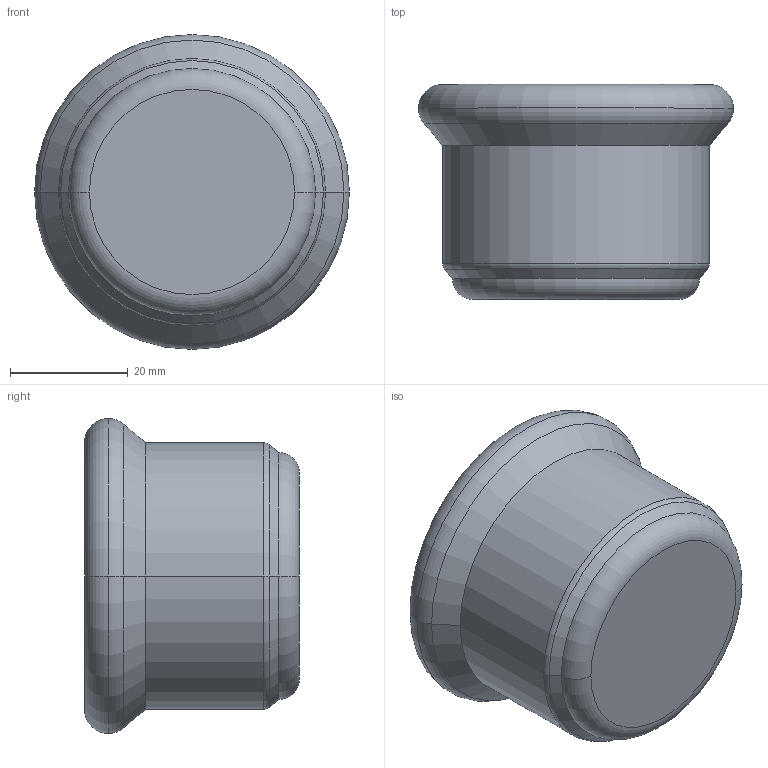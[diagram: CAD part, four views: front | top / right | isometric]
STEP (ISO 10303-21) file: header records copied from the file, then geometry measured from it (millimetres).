
FILE_DESCRIPTION(('OneSpaceDesigner STEP Export'),'2;1');
FILE_NAME('R2729 42.stp','2010-06-10T13:34:33',(''),(''),'OneSpace Designer STEP processor for AP214 (Solid Model)','OneSpace Modeling 15.00A 14-Mar-2007 (C) CoCreate Software GmbH','');
FILE_SCHEMA(('AUTOMOTIVE_DESIGN { 1 0 10303 214 1 1 1 1 }'));
Length unit declared in the file: millimetre
Products named in the file (2): R2729_42
Assembly tree (1 placements, depth 2):
  R2729_42
    R2729_42
Bounding box: 53.55 x 36.55 x 53.55 mm (x, y, z)
Volume: 16775.3 mm3; surface area: 14527.5 mm2
Topology: 1 solids, 1 shells, 61 faces, 148 edges, 95 vertices
Faces by surface type: plane 32, cylinder 17, torus 8, cone 4
Entity records: 1612 total; most frequent: ORIENTED_EDGE 296, CARTESIAN_POINT 258, DIRECTION 239, EDGE_CURVE 148, VERTEX_POINT 95, VECTOR 87, LINE 87, AXIS2_PLACEMENT_3D 76
